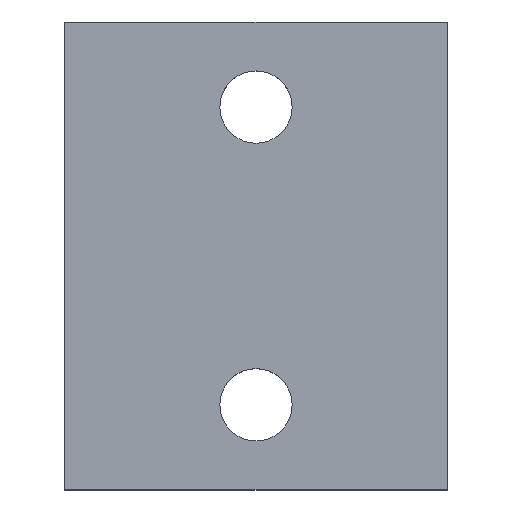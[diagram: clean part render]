
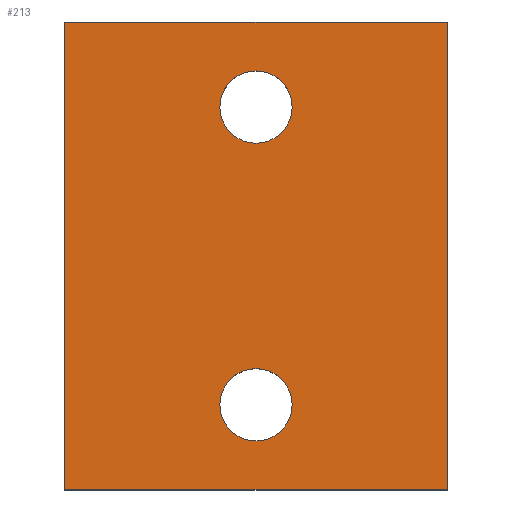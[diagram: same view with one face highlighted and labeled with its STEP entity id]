
A CAD part, top view. The second image highlights one B-rep face of the part: STEP entity #213.
In plain terms, the highlighted planar face has unit normal (0, 0, 1).
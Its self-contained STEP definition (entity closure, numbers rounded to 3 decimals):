
#24 = VERTEX_POINT('',#25);
#25 = CARTESIAN_POINT('',(0.,0.,3.));
#32 = PLANE('',#33);
#33 = AXIS2_PLACEMENT_3D('',#34,#35,#36);
#34 = CARTESIAN_POINT('',(0.,0.,0.));
#35 = DIRECTION('',(1.,0.,0.));
#36 = DIRECTION('',(0.,0.,1.));
#44 = PLANE('',#45);
#45 = AXIS2_PLACEMENT_3D('',#46,#47,#48);
#46 = CARTESIAN_POINT('',(0.,0.,0.));
#47 = DIRECTION('',(0.,1.,0.));
#48 = DIRECTION('',(0.,0.,1.));
#85 = VERTEX_POINT('',#86);
#86 = CARTESIAN_POINT('',(0.,22.,3.));
#100 = PLANE('',#101);
#101 = AXIS2_PLACEMENT_3D('',#102,#103,#104);
#102 = CARTESIAN_POINT('',(0.,22.,0.));
#103 = DIRECTION('',(0.,1.,0.));
#104 = DIRECTION('',(0.,0.,1.));
#112 = EDGE_CURVE('',#24,#85,#113,.T.);
#113 = SURFACE_CURVE('',#114,(#118,#125),.PCURVE_S1.);
#114 = LINE('',#115,#116);
#115 = CARTESIAN_POINT('',(0.,0.,3.));
#116 = VECTOR('',#117,1.);
#117 = DIRECTION('',(0.,1.,0.));
#118 = PCURVE('',#32,#119);
#119 = DEFINITIONAL_REPRESENTATION('',(#120),#124);
#120 = LINE('',#121,#122);
#121 = CARTESIAN_POINT('',(3.,0.));
#122 = VECTOR('',#123,1.);
#123 = DIRECTION('',(0.,-1.));
#124 = ( GEOMETRIC_REPRESENTATION_CONTEXT(2) 
PARAMETRIC_REPRESENTATION_CONTEXT() REPRESENTATION_CONTEXT('2D SPACE',''
  ) );
#125 = PCURVE('',#126,#131);
#126 = PLANE('',#127);
#127 = AXIS2_PLACEMENT_3D('',#128,#129,#130);
#128 = CARTESIAN_POINT('',(0.,0.,3.));
#129 = DIRECTION('',(0.,0.,1.));
#130 = DIRECTION('',(1.,0.,0.));
#131 = DEFINITIONAL_REPRESENTATION('',(#132),#136);
#132 = LINE('',#133,#134);
#133 = CARTESIAN_POINT('',(0.,0.));
#134 = VECTOR('',#135,1.);
#135 = DIRECTION('',(0.,1.));
#136 = ( GEOMETRIC_REPRESENTATION_CONTEXT(2) 
PARAMETRIC_REPRESENTATION_CONTEXT() REPRESENTATION_CONTEXT('2D SPACE',''
  ) );
#165 = EDGE_CURVE('',#24,#166,#168,.T.);
#166 = VERTEX_POINT('',#167);
#167 = CARTESIAN_POINT('',(18.,0.,3.));
#168 = SURFACE_CURVE('',#169,(#173,#180),.PCURVE_S1.);
#169 = LINE('',#170,#171);
#170 = CARTESIAN_POINT('',(0.,0.,3.));
#171 = VECTOR('',#172,1.);
#172 = DIRECTION('',(1.,0.,0.));
#173 = PCURVE('',#44,#174);
#174 = DEFINITIONAL_REPRESENTATION('',(#175),#179);
#175 = LINE('',#176,#177);
#176 = CARTESIAN_POINT('',(3.,0.));
#177 = VECTOR('',#178,1.);
#178 = DIRECTION('',(0.,1.));
#179 = ( GEOMETRIC_REPRESENTATION_CONTEXT(2) 
PARAMETRIC_REPRESENTATION_CONTEXT() REPRESENTATION_CONTEXT('2D SPACE',''
  ) );
#180 = PCURVE('',#126,#181);
#181 = DEFINITIONAL_REPRESENTATION('',(#182),#186);
#182 = LINE('',#183,#184);
#183 = CARTESIAN_POINT('',(0.,0.));
#184 = VECTOR('',#185,1.);
#185 = DIRECTION('',(1.,0.));
#186 = ( GEOMETRIC_REPRESENTATION_CONTEXT(2) 
PARAMETRIC_REPRESENTATION_CONTEXT() REPRESENTATION_CONTEXT('2D SPACE',''
  ) );
#202 = PLANE('',#203);
#203 = AXIS2_PLACEMENT_3D('',#204,#205,#206);
#204 = CARTESIAN_POINT('',(18.,0.,0.));
#205 = DIRECTION('',(1.,0.,0.));
#206 = DIRECTION('',(0.,0.,1.));
#213 = ADVANCED_FACE('',(#214,#262,#293),#126,.T.);
#214 = FACE_BOUND('',#215,.T.);
#215 = EDGE_LOOP('',(#216,#217,#218,#241));
#216 = ORIENTED_EDGE('',*,*,#112,.F.);
#217 = ORIENTED_EDGE('',*,*,#165,.T.);
#218 = ORIENTED_EDGE('',*,*,#219,.T.);
#219 = EDGE_CURVE('',#166,#220,#222,.T.);
#220 = VERTEX_POINT('',#221);
#221 = CARTESIAN_POINT('',(18.,22.,3.));
#222 = SURFACE_CURVE('',#223,(#227,#234),.PCURVE_S1.);
#223 = LINE('',#224,#225);
#224 = CARTESIAN_POINT('',(18.,0.,3.));
#225 = VECTOR('',#226,1.);
#226 = DIRECTION('',(0.,1.,0.));
#227 = PCURVE('',#126,#228);
#228 = DEFINITIONAL_REPRESENTATION('',(#229),#233);
#229 = LINE('',#230,#231);
#230 = CARTESIAN_POINT('',(18.,0.));
#231 = VECTOR('',#232,1.);
#232 = DIRECTION('',(0.,1.));
#233 = ( GEOMETRIC_REPRESENTATION_CONTEXT(2) 
PARAMETRIC_REPRESENTATION_CONTEXT() REPRESENTATION_CONTEXT('2D SPACE',''
  ) );
#234 = PCURVE('',#202,#235);
#235 = DEFINITIONAL_REPRESENTATION('',(#236),#240);
#236 = LINE('',#237,#238);
#237 = CARTESIAN_POINT('',(3.,0.));
#238 = VECTOR('',#239,1.);
#239 = DIRECTION('',(0.,-1.));
#240 = ( GEOMETRIC_REPRESENTATION_CONTEXT(2) 
PARAMETRIC_REPRESENTATION_CONTEXT() REPRESENTATION_CONTEXT('2D SPACE',''
  ) );
#241 = ORIENTED_EDGE('',*,*,#242,.F.);
#242 = EDGE_CURVE('',#85,#220,#243,.T.);
#243 = SURFACE_CURVE('',#244,(#248,#255),.PCURVE_S1.);
#244 = LINE('',#245,#246);
#245 = CARTESIAN_POINT('',(0.,22.,3.));
#246 = VECTOR('',#247,1.);
#247 = DIRECTION('',(1.,0.,0.));
#248 = PCURVE('',#126,#249);
#249 = DEFINITIONAL_REPRESENTATION('',(#250),#254);
#250 = LINE('',#251,#252);
#251 = CARTESIAN_POINT('',(0.,22.));
#252 = VECTOR('',#253,1.);
#253 = DIRECTION('',(1.,0.));
#254 = ( GEOMETRIC_REPRESENTATION_CONTEXT(2) 
PARAMETRIC_REPRESENTATION_CONTEXT() REPRESENTATION_CONTEXT('2D SPACE',''
  ) );
#255 = PCURVE('',#100,#256);
#256 = DEFINITIONAL_REPRESENTATION('',(#257),#261);
#257 = LINE('',#258,#259);
#258 = CARTESIAN_POINT('',(3.,0.));
#259 = VECTOR('',#260,1.);
#260 = DIRECTION('',(0.,1.));
#261 = ( GEOMETRIC_REPRESENTATION_CONTEXT(2) 
PARAMETRIC_REPRESENTATION_CONTEXT() REPRESENTATION_CONTEXT('2D SPACE',''
  ) );
#262 = FACE_BOUND('',#263,.T.);
#263 = EDGE_LOOP('',(#264));
#264 = ORIENTED_EDGE('',*,*,#265,.F.);
#265 = EDGE_CURVE('',#266,#266,#268,.T.);
#266 = VERTEX_POINT('',#267);
#267 = CARTESIAN_POINT('',(10.7,4.,3.));
#268 = SURFACE_CURVE('',#269,(#274,#281),.PCURVE_S1.);
#269 = CIRCLE('',#270,1.7);
#270 = AXIS2_PLACEMENT_3D('',#271,#272,#273);
#271 = CARTESIAN_POINT('',(9.,4.,3.));
#272 = DIRECTION('',(0.,0.,1.));
#273 = DIRECTION('',(1.,0.,-0.));
#274 = PCURVE('',#126,#275);
#275 = DEFINITIONAL_REPRESENTATION('',(#276),#280);
#276 = CIRCLE('',#277,1.7);
#277 = AXIS2_PLACEMENT_2D('',#278,#279);
#278 = CARTESIAN_POINT('',(9.,4.));
#279 = DIRECTION('',(1.,0.));
#280 = ( GEOMETRIC_REPRESENTATION_CONTEXT(2) 
PARAMETRIC_REPRESENTATION_CONTEXT() REPRESENTATION_CONTEXT('2D SPACE',''
  ) );
#281 = PCURVE('',#282,#287);
#282 = CYLINDRICAL_SURFACE('',#283,1.7);
#283 = AXIS2_PLACEMENT_3D('',#284,#285,#286);
#284 = CARTESIAN_POINT('',(9.,4.,-50.));
#285 = DIRECTION('',(0.,0.,1.));
#286 = DIRECTION('',(1.,0.,-0.));
#287 = DEFINITIONAL_REPRESENTATION('',(#288),#292);
#288 = LINE('',#289,#290);
#289 = CARTESIAN_POINT('',(0.,53.));
#290 = VECTOR('',#291,1.);
#291 = DIRECTION('',(1.,0.));
#292 = ( GEOMETRIC_REPRESENTATION_CONTEXT(2) 
PARAMETRIC_REPRESENTATION_CONTEXT() REPRESENTATION_CONTEXT('2D SPACE',''
  ) );
#293 = FACE_BOUND('',#294,.T.);
#294 = EDGE_LOOP('',(#295));
#295 = ORIENTED_EDGE('',*,*,#296,.F.);
#296 = EDGE_CURVE('',#297,#297,#299,.T.);
#297 = VERTEX_POINT('',#298);
#298 = CARTESIAN_POINT('',(10.7,18.,3.));
#299 = SURFACE_CURVE('',#300,(#305,#312),.PCURVE_S1.);
#300 = CIRCLE('',#301,1.7);
#301 = AXIS2_PLACEMENT_3D('',#302,#303,#304);
#302 = CARTESIAN_POINT('',(9.,18.,3.));
#303 = DIRECTION('',(0.,0.,1.));
#304 = DIRECTION('',(1.,0.,-0.));
#305 = PCURVE('',#126,#306);
#306 = DEFINITIONAL_REPRESENTATION('',(#307),#311);
#307 = CIRCLE('',#308,1.7);
#308 = AXIS2_PLACEMENT_2D('',#309,#310);
#309 = CARTESIAN_POINT('',(9.,18.));
#310 = DIRECTION('',(1.,0.));
#311 = ( GEOMETRIC_REPRESENTATION_CONTEXT(2) 
PARAMETRIC_REPRESENTATION_CONTEXT() REPRESENTATION_CONTEXT('2D SPACE',''
  ) );
#312 = PCURVE('',#313,#318);
#313 = CYLINDRICAL_SURFACE('',#314,1.7);
#314 = AXIS2_PLACEMENT_3D('',#315,#316,#317);
#315 = CARTESIAN_POINT('',(9.,18.,-50.));
#316 = DIRECTION('',(0.,0.,1.));
#317 = DIRECTION('',(1.,0.,-0.));
#318 = DEFINITIONAL_REPRESENTATION('',(#319),#323);
#319 = LINE('',#320,#321);
#320 = CARTESIAN_POINT('',(0.,53.));
#321 = VECTOR('',#322,1.);
#322 = DIRECTION('',(1.,0.));
#323 = ( GEOMETRIC_REPRESENTATION_CONTEXT(2) 
PARAMETRIC_REPRESENTATION_CONTEXT() REPRESENTATION_CONTEXT('2D SPACE',''
  ) );
